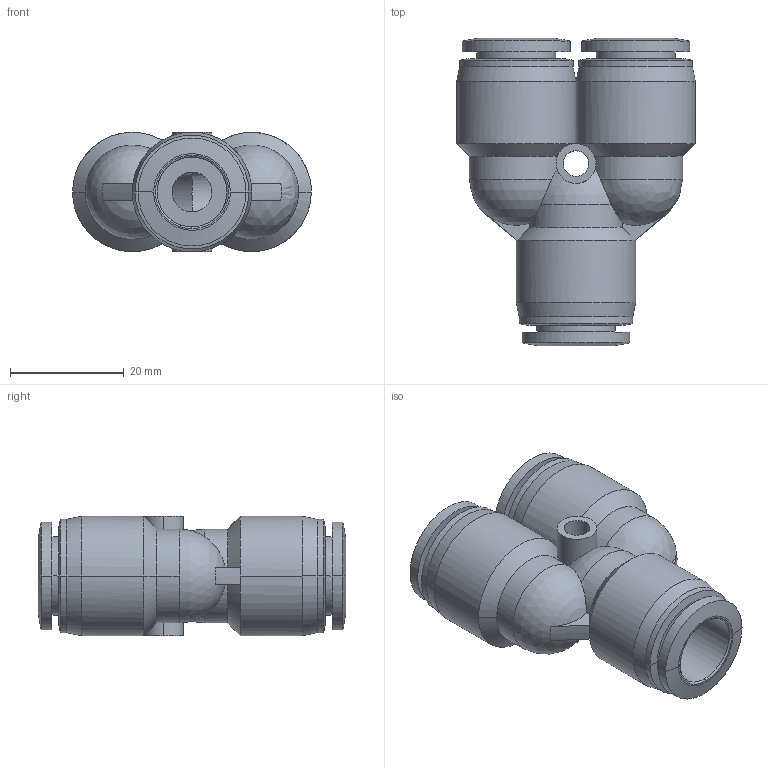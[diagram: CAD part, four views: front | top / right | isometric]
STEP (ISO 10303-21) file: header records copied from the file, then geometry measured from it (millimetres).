
FILE_DESCRIPTION (( 'STEP AP203' ), '1' );
FILE_NAME ('FY12-00.STEP', '2020-05-06T15:28:13', ( '' ), ( '' ), 'SwSTEP 2.0', 'SolidWorks 2019', '' );
FILE_SCHEMA (( 'CONFIG_CONTROL_DESIGN' ));
Length unit declared in the file: millimetre
Products named in the file (1): FY12-00
Bounding box: 42 x 54.1 x 21 mm (x, y, z)
Volume: 16599 mm3; surface area: 10365.4 mm2
Topology: 1 solids, 1 shells, 102 faces, 242 edges, 148 vertices
Faces by surface type: bspline 37, cylinder 30, cone 16, plane 16, sphere 3
Entity records: 5667 total; most frequent: CARTESIAN_POINT 3840, ORIENTED_EDGE 480, EDGE_CURVE 240, DIRECTION 171, B_SPLINE_CURVE_WITH_KNOTS 156, VERTEX_POINT 148, EDGE_LOOP 116, FACE_OUTER_BOUND 102
